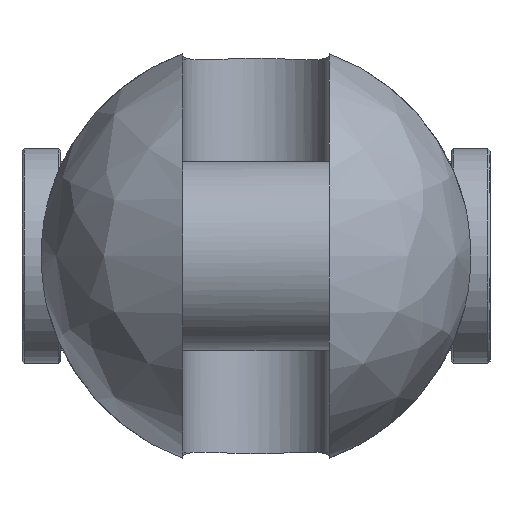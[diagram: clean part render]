
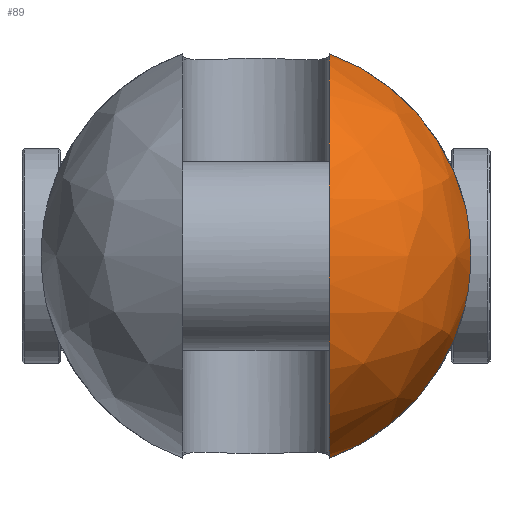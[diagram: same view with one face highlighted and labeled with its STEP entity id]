
A CAD part, left-side view. The second image highlights one B-rep face of the part: STEP entity #89.
In plain terms, the highlighted free-form (B-spline) face has degree [2, 2] with [9, 5] control points.
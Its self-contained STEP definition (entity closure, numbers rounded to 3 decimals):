
#89=ADVANCED_FACE('',(#164),#1306,.T.);
#164=FACE_OUTER_BOUND('',#249,.T.);
#249=EDGE_LOOP('',(#583,#584,#585,#586));
#583=ORIENTED_EDGE('',*,*,#809,.T.);
#584=ORIENTED_EDGE('',*,*,#835,.F.);
#585=ORIENTED_EDGE('',*,*,#847,.T.);
#586=ORIENTED_EDGE('',*,*,#827,.F.);
#809=EDGE_CURVE('',#1192,#1191,#1045,.T.);
#827=EDGE_CURVE('',#1192,#1204,#1055,.T.);
#835=EDGE_CURVE('',#1211,#1191,#1056,.T.);
#847=EDGE_CURVE('',#1211,#1204,#963,.T.);
#963=B_SPLINE_CURVE_WITH_KNOTS('',3,(#3152,#3153,#3154,#3155,#3156,#3157,
#3158,#3159,#3160,#3161,#3162,#3163,#3164,#3165),.UNSPECIFIED.,.F.,.F.,
(4,2,2,2,2,2,4),(0.,1.644,7.193,12.741,18.289,
23.838,25.482),.UNSPECIFIED.);
#1045=(
BOUNDED_CURVE()
B_SPLINE_CURVE(2,(#2908,#2909,#2910,#2911,#2912),.UNSPECIFIED.,.F.,.F.)
B_SPLINE_CURVE_WITH_KNOTS((3,2,3),(-147.722,-73.861,0.),
 .UNSPECIFIED.)
CURVE()
GEOMETRIC_REPRESENTATION_ITEM()
RATIONAL_B_SPLINE_CURVE((1.,0.707,1.,0.707,1.))
REPRESENTATION_ITEM('')
);
#1055=(
BOUNDED_CURVE()
B_SPLINE_CURVE(2,(#3022,#3023,#3024),.UNSPECIFIED.,.F.,.F.)
B_SPLINE_CURVE_WITH_KNOTS((3,3),(0.,48.948),.UNSPECIFIED.)
CURVE()
GEOMETRIC_REPRESENTATION_ITEM()
RATIONAL_B_SPLINE_CURVE((1.,0.883,1.))
REPRESENTATION_ITEM('')
);
#1056=(
BOUNDED_CURVE()
B_SPLINE_CURVE(2,(#3079,#3080,#3081),.UNSPECIFIED.,.F.,.F.)
B_SPLINE_CURVE_WITH_KNOTS((3,3),(0.,48.948),.UNSPECIFIED.)
CURVE()
GEOMETRIC_REPRESENTATION_ITEM()
RATIONAL_B_SPLINE_CURVE((1.,0.883,1.))
REPRESENTATION_ITEM('')
);
#1191=VERTEX_POINT('',#2837);
#1192=VERTEX_POINT('',#2838);
#1204=VERTEX_POINT('',#2850);
#1211=VERTEX_POINT('',#2857);
#1306=(
BOUNDED_SURFACE()
B_SPLINE_SURFACE(2,2,((#2445,#2446,#2447,#2448,#2449),(#2450,#2451,#2452,
#2453,#2454),(#2455,#2456,#2457,#2458,#2459),(#2460,#2461,#2462,#2463,#2464),
(#2465,#2466,#2467,#2468,#2469),(#2470,#2471,#2472,#2473,#2474),(#2475,
#2476,#2477,#2478,#2479),(#2480,#2481,#2482,#2483,#2484),(#2485,#2486,#2487,
#2488,#2489)),.UNSPECIFIED.,.T.,.F.,.F.)
B_SPLINE_SURFACE_WITH_KNOTS((3,2,2,2,3),(3,2,3),(0.,78.54,157.08,
235.619,314.159),(0.,78.54,157.08),
 .UNSPECIFIED.)
GEOMETRIC_REPRESENTATION_ITEM()
RATIONAL_B_SPLINE_SURFACE(((1.,0.707,1.,0.707,1.),
(0.707,0.5,0.707,0.5,0.707),(1.,0.707,
1.,0.707,1.),(0.707,0.5,0.707,0.5,0.707),
(1.,0.707,1.,0.707,1.),(0.707,0.5,0.707,
0.5,0.707),(1.,0.707,1.,0.707,1.),(0.707,
0.5,0.707,0.5,0.707),(1.,0.707,1.,0.707,
1.)))
REPRESENTATION_ITEM('')
SURFACE()
);
#2445=CARTESIAN_POINT('',(-73.,0.,0.));
#2446=CARTESIAN_POINT('',(-73.,50.,0.));
#2447=CARTESIAN_POINT('',(-23.,50.,0.));
#2448=CARTESIAN_POINT('',(27.,50.,0.));
#2449=CARTESIAN_POINT('',(27.,0.,0.));
#2450=CARTESIAN_POINT('',(-73.,0.,0.));
#2451=CARTESIAN_POINT('',(-73.,50.,50.));
#2452=CARTESIAN_POINT('',(-23.,50.,50.));
#2453=CARTESIAN_POINT('',(27.,50.,50.));
#2454=CARTESIAN_POINT('',(27.,0.,0.));
#2455=CARTESIAN_POINT('',(-73.,0.,0.));
#2456=CARTESIAN_POINT('',(-73.,0.,50.));
#2457=CARTESIAN_POINT('',(-23.,0.,50.));
#2458=CARTESIAN_POINT('',(27.,0.,50.));
#2459=CARTESIAN_POINT('',(27.,0.,0.));
#2460=CARTESIAN_POINT('',(-73.,0.,0.));
#2461=CARTESIAN_POINT('',(-73.,-50.,50.));
#2462=CARTESIAN_POINT('',(-23.,-50.,50.));
#2463=CARTESIAN_POINT('',(27.,-50.,50.));
#2464=CARTESIAN_POINT('',(27.,0.,0.));
#2465=CARTESIAN_POINT('',(-73.,0.,0.));
#2466=CARTESIAN_POINT('',(-73.,-50.,0.));
#2467=CARTESIAN_POINT('',(-23.,-50.,0.));
#2468=CARTESIAN_POINT('',(27.,-50.,0.));
#2469=CARTESIAN_POINT('',(27.,0.,0.));
#2470=CARTESIAN_POINT('',(-73.,0.,0.));
#2471=CARTESIAN_POINT('',(-73.,-50.,-50.));
#2472=CARTESIAN_POINT('',(-23.,-50.,-50.));
#2473=CARTESIAN_POINT('',(27.,-50.,-50.));
#2474=CARTESIAN_POINT('',(27.,0.,0.));
#2475=CARTESIAN_POINT('',(-73.,0.,0.));
#2476=CARTESIAN_POINT('',(-73.,0.,-50.));
#2477=CARTESIAN_POINT('',(-23.,0.,-50.));
#2478=CARTESIAN_POINT('',(27.,0.,-50.));
#2479=CARTESIAN_POINT('',(27.,0.,0.));
#2480=CARTESIAN_POINT('',(-73.,0.,0.));
#2481=CARTESIAN_POINT('',(-73.,50.,-50.));
#2482=CARTESIAN_POINT('',(-23.,50.,-50.));
#2483=CARTESIAN_POINT('',(27.,50.,-50.));
#2484=CARTESIAN_POINT('',(27.,0.,0.));
#2485=CARTESIAN_POINT('',(-73.,0.,0.));
#2486=CARTESIAN_POINT('',(-73.,50.,0.));
#2487=CARTESIAN_POINT('',(-23.,50.,0.));
#2488=CARTESIAN_POINT('',(27.,50.,0.));
#2489=CARTESIAN_POINT('',(27.,0.,0.));
#2837=CARTESIAN_POINT('',(-23.,-17.,-47.021));
#2838=CARTESIAN_POINT('',(-23.,-17.,47.021));
#2850=CARTESIAN_POINT('',(-23.,-48.508,12.124));
#2857=CARTESIAN_POINT('',(-23.,-48.508,-12.124));
#2908=CARTESIAN_POINT('',(-23.,-17.,47.021));
#2909=CARTESIAN_POINT('',(-70.021,-17.,47.021));
#2910=CARTESIAN_POINT('',(-70.021,-17.,0.));
#2911=CARTESIAN_POINT('',(-70.021,-17.,-47.021));
#2912=CARTESIAN_POINT('',(-23.,-17.,-47.021));
#3022=CARTESIAN_POINT('',(-23.,-17.,47.021));
#3023=CARTESIAN_POINT('',(-23.,-42.049,37.965));
#3024=CARTESIAN_POINT('',(-23.,-48.508,12.124));
#3079=CARTESIAN_POINT('',(-23.,-48.508,-12.124));
#3080=CARTESIAN_POINT('',(-23.,-42.049,-37.965));
#3081=CARTESIAN_POINT('',(-23.,-17.,-47.021));
#3152=CARTESIAN_POINT('',(-23.,-48.508,-12.124));
#3153=CARTESIAN_POINT('',(-23.253,-48.628,-11.645));
#3154=CARTESIAN_POINT('',(-23.491,-48.74,-11.156));
#3155=CARTESIAN_POINT('',(-24.469,-49.2,-8.982));
#3156=CARTESIAN_POINT('',(-25.048,-49.47,-7.21));
#3157=CARTESIAN_POINT('',(-25.814,-49.824,-3.609));
#3158=CARTESIAN_POINT('',(-26.,-49.91,-1.781));
#3159=CARTESIAN_POINT('',(-26.,-49.91,1.781));
#3160=CARTESIAN_POINT('',(-25.814,-49.824,3.609));
#3161=CARTESIAN_POINT('',(-25.048,-49.47,7.21));
#3162=CARTESIAN_POINT('',(-24.469,-49.2,8.982));
#3163=CARTESIAN_POINT('',(-23.491,-48.74,11.156));
#3164=CARTESIAN_POINT('',(-23.253,-48.628,11.645));
#3165=CARTESIAN_POINT('',(-23.,-48.508,12.124));
